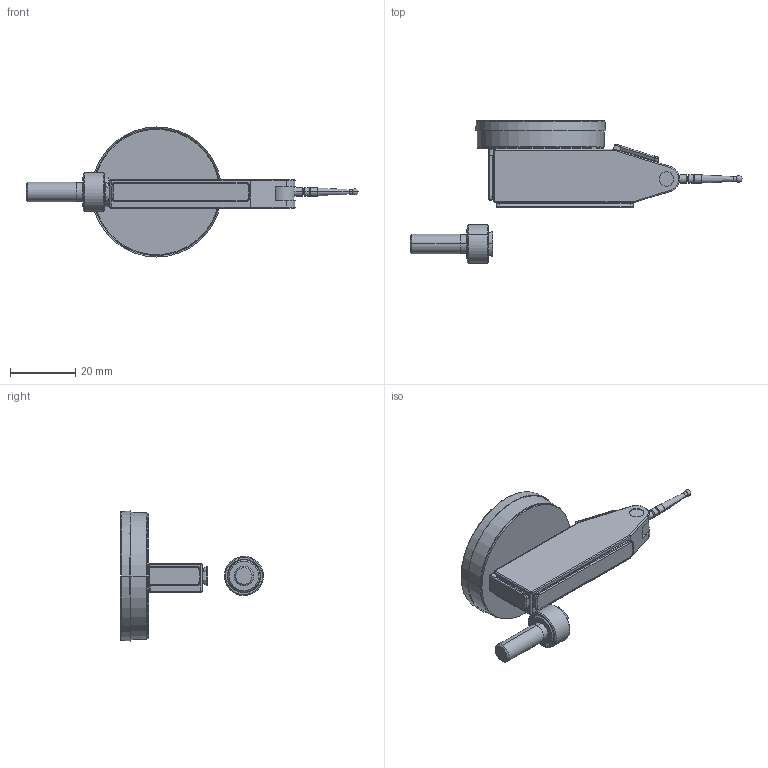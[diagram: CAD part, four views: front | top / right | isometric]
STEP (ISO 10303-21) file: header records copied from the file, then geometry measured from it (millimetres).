
FILE_DESCRIPTION(('Creo Elements/Direct Modeling STEP Export'),'2;1');
FILE_NAME('513-424-10H_TI-133HX.stp','2020-03-26T13:36:26',(''),(''),'Creo Elements/Direct Modeling STEP processor for AP214 (Solid Model)','Creo Elements/Direct Modeling 18.1I 13-Aug-2016 (C) Parametric Technology GmbH','');
FILE_SCHEMA(('AUTOMOTIVE_DESIGN { 1 0 10303 214 1 1 1 1 }'));
Length unit declared in the file: millimetre
Products named in the file (4): nut_190322; 513-424-10; stem_21CAB103; 513-424-10H
Assembly tree (3 placements, depth 2):
  513-424-10H
    stem_21CAB103
    513-424-10
    nut_190322
Bounding box: 102.13 x 43.95 x 40 mm (x, y, z)
Volume: 19675.6 mm3; surface area: 8311.1 mm2
Topology: 3 solids, 3 shells, 209 faces, 476 edges, 282 vertices
Faces by surface type: cylinder 85, plane 52, cone 38, torus 16, bspline 16, sphere 2
Entity records: 9131 total; most frequent: CARTESIAN_POINT 4689, ORIENTED_EDGE 948, DIRECTION 861, EDGE_CURVE 474, AXIS2_PLACEMENT_3D 326, VERTEX_POINT 282, EDGE_LOOP 228, FACE_OUTER_BOUND 209
